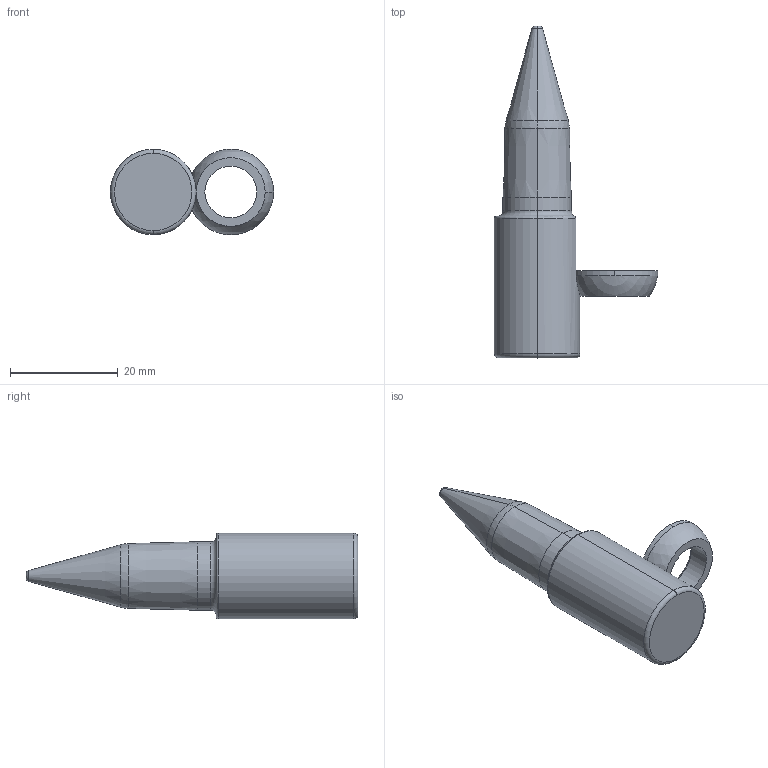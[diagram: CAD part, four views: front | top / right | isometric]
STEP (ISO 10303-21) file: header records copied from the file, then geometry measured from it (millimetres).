
FILE_DESCRIPTION (( 'STEP AP214' ), '1' );
FILE_NAME ('PA-T-.500-.100-0.5-3-A-F1.STEP', '2019-05-08T17:34:39', ( '' ), ( '' ), 'SwSTEP 2.0', 'SolidWorks 2017', '' );
FILE_SCHEMA (( 'AUTOMOTIVE_DESIGN' ));
Length unit declared in the file: inch
Products named in the file (3): SLPilot-PA-T-E_PA-T-.500-.100-0.5-3-A-F1; SLRadiusWasher_RadiusWasher-E; PA-T-.500-.100-0.5-3-A-F1
Assembly tree (2 placements, depth 2):
  PA-T-.500-.100-0.5-3-A-F1
    SLPilot-PA-T-E_PA-T-.500-.100-0.5-3-A-F1
    SLRadiusWasher_RadiusWasher-E
Bounding box: 30.28 x 61.59 x 15.88 mm (x, y, z)
Volume: 8461.7 mm3; surface area: 3160.7 mm2
Topology: 2 solids, 2 shells, 35 faces, 77 edges, 46 vertices
Faces by surface type: torus 11, cylinder 9, cone 6, plane 5, sphere 4
Entity records: 1168 total; most frequent: CARTESIAN_POINT 234, DIRECTION 208, ORIENTED_EDGE 154, AXIS2_PLACEMENT_3D 96, EDGE_CURVE 77, CIRCLE 56, VERTEX_POINT 46, EDGE_LOOP 37
